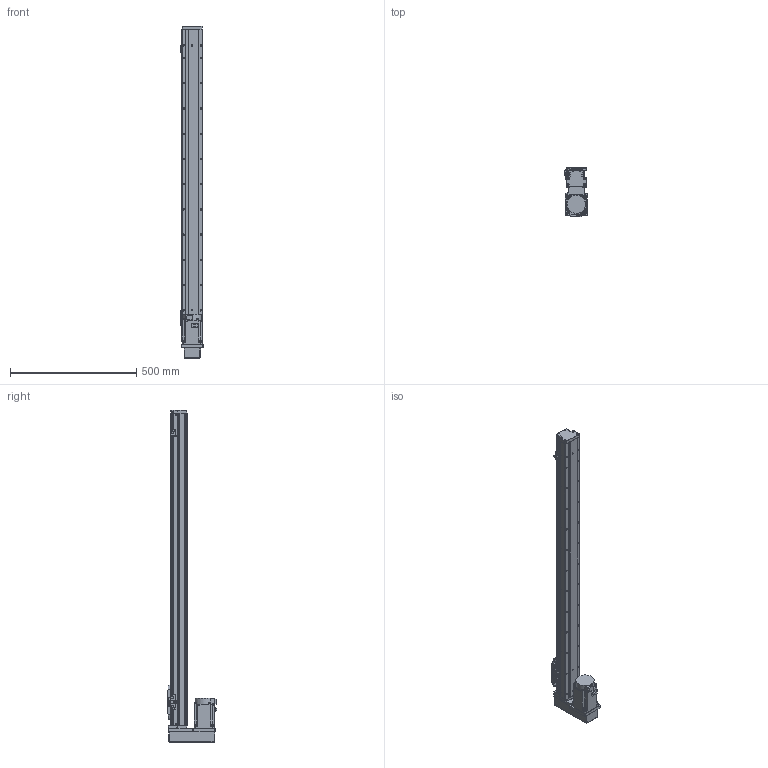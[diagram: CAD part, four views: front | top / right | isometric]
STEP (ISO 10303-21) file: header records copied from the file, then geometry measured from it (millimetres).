
FILE_DESCRIPTION (( 'STEP AP203' ), '1' );
FILE_NAME ('GTH8-1050-BM-M75-C4.step', '2023-02-14T02:27:13', ( '微软用户' ), ( '微软中国' ), 'SwSTEP 2.0', 'SolidWorks 2020', '' );
FILE_SCHEMA (( 'CONFIG_CONTROL_DESIGN' ));
Length unit declared in the file: millimetre
Products named in the file (18): GTH80-022; BTH-M3X5X6; GTH80-001_1050; GBT 70.1-M3℅6; CTHA86-015-3_CTHA86-015-4; GTH80-003; GBT 70.1-M4×16; CTHA86-035; GTH80-004; GTH80-028; hg-kn73j_-s100; GTH80-006; GTH50-024; GTH8-1050-BM-M75-C4; GTH80-013; GTH50-023; GBT 70.3-M3℅6; GBT96.1-2002 3×0.8
Assembly tree (57 placements, depth 2):
  GTH8-1050-BM-M75-C4
    GTH80-001_1050
    GTH80-003
    GTH80-004
    GTH80-006
    GTH80-013
    GBT 70.3-M3℅6  x4
    GTH80-022
    GBT 70.1-M3℅6  x14
    GBT 70.1-M4×16  x8
    GTH80-028  x2
    GTH50-024  x3
    GTH50-023  x3
    GBT96.1-2002 3×0.8  x6
    BTH-M3X5X6  x8
    CTHA86-015-3_CTHA86-015-4
    CTHA86-035
    hg-kn73j_-s100
Bounding box: 89.4 x 195.3 x 1316 mm (x, y, z)
Volume: 6912005.4 mm3; surface area: 656865.8 mm2
Topology: 59 solids, 59 shells, 2215 faces, 5154 edges, 3160 vertices
Faces by surface type: plane 1153, cylinder 647, cone 243, torus 158, sphere 12, bspline 2
Entity records: 40328 total; most frequent: CARTESIAN_POINT 6767, DIRECTION 6669, ORIENTED_EDGE 6118, EDGE_CURVE 3059, AXIS2_PLACEMENT_3D 2362, LINE 1945, VECTOR 1945, VERTEX_POINT 1935
